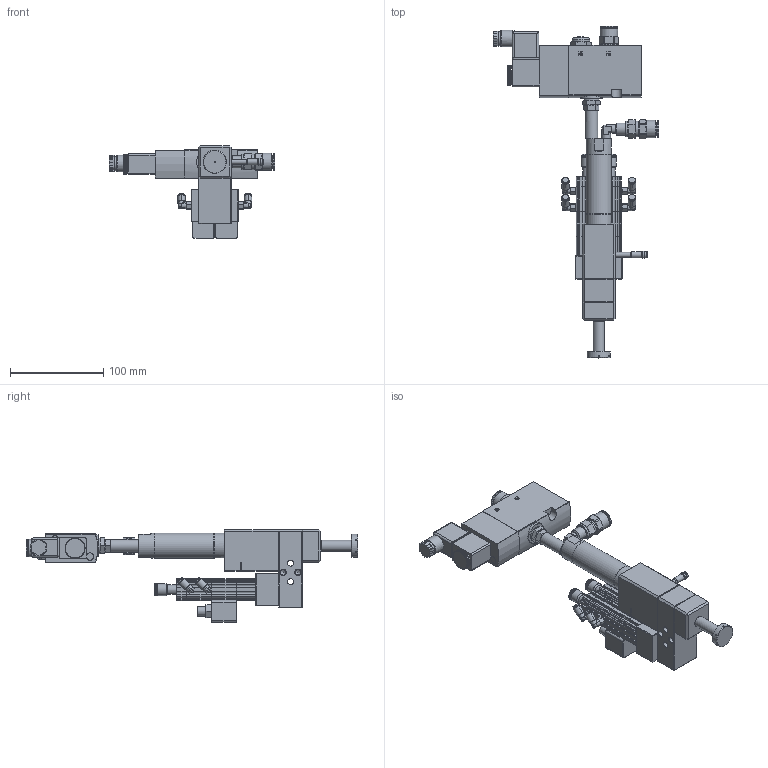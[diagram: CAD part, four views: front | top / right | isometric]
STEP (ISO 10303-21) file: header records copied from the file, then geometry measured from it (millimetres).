
FILE_DESCRIPTION (( 'STEP AP214' ), '1' );
FILE_NAME ('DAVR 2x100_200.STEP', '2023-07-17T06:21:29', ( '' ), ( '' ), 'SwSTEP 2.0', 'SolidWorks 2022', '' );
FILE_SCHEMA (( 'AUTOMOTIVE_DESIGN' ));
Length unit declared in the file: millimetre
Products named in the file (1): DAVR 2x100_200
Bounding box: 177.55 x 356.88 x 99.81 mm (x, y, z)
Volume: 646265.2 mm3; surface area: 130255.2 mm2
Topology: 1 solids, 1 shells, 3506 faces, 8789 edges, 5156 vertices
Faces by surface type: plane 2182, cone 659, cylinder 644, sphere 8, torus 7, bspline 6
Full cylindrical faces by diameter (mm): 1.3 x6, 2.5 x1, 4.3 x1, 5 x3, 5.5 x1, 6 x7, 6.5 x2, 6.55 x2, 8 x1, 9.5 x2, 9.97 x2, 10 x3, 12 x1, 13 x3, 13.5 x2, 13.6 x1, 15.2 x1, 16 x1, 16.7 x2, 18 x1, 18.5 x2, 18.8 x2, 19 x1, 20 x1, 21 x1, 22 x1, 22.8 x1, 23.5 x1, 25 x1, 27 x3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
Entity records: 102151 total; most frequent: CARTESIAN_POINT 22867, ORIENTED_EDGE 16828, DIRECTION 15899, EDGE_CURVE 8414, AXIS2_PLACEMENT_3D 5387, VECTOR 5125, LINE 5125, VERTEX_POINT 5092
